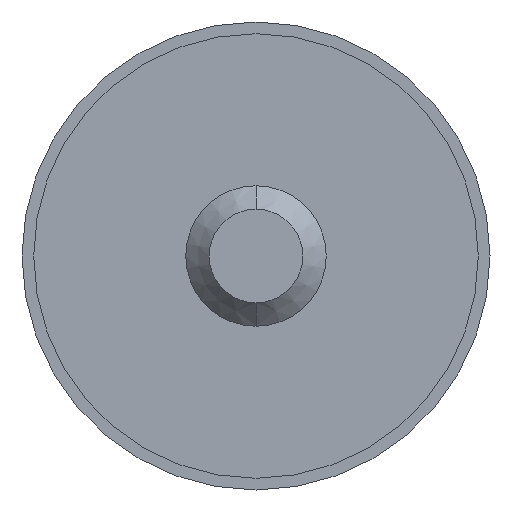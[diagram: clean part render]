
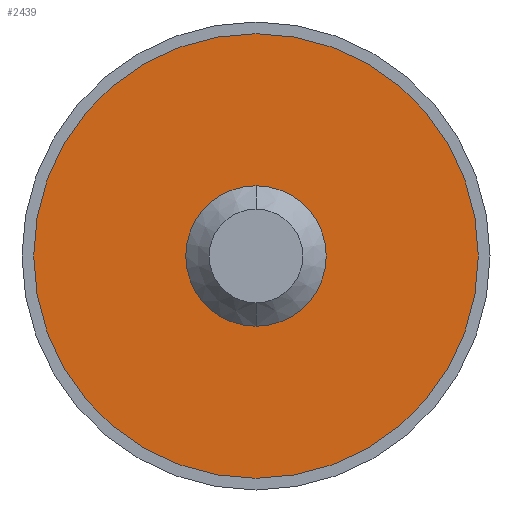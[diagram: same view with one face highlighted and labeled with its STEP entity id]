
A CAD part, front view. The second image highlights one B-rep face of the part: STEP entity #2439.
In plain terms, the highlighted planar face has unit normal (0, -1, 0).
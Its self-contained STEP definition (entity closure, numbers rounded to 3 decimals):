
#43 = DIRECTION ( 'NONE',  ( 0., 0., -1. ) ) ;
#152 = CARTESIAN_POINT ( 'NONE',  ( 0., -1., 3. ) ) ;
#338 = DIRECTION ( 'NONE',  ( 0., 0., 1. ) ) ;
#340 = DIRECTION ( 'NONE',  ( 0., 0., 1. ) ) ;
#459 = CIRCLE ( 'NONE', #2660, 3. ) ;
#659 = DIRECTION ( 'NONE',  ( 0., 1., 0. ) ) ;
#704 = AXIS2_PLACEMENT_3D ( 'NONE', #3659, #1182, #3353 ) ;
#712 = EDGE_CURVE ( 'NONE', #1433, #3768, #459, .T. ) ;
#718 = EDGE_CURVE ( 'NONE', #3768, #1433, #3580, .T. ) ;
#1051 = FACE_OUTER_BOUND ( 'NONE', #3373, .T. ) ;
#1182 = DIRECTION ( 'NONE',  ( 0., 1., 0. ) ) ;
#1228 = CARTESIAN_POINT ( 'NONE',  ( 0., -1., 0. ) ) ;
#1270 = CARTESIAN_POINT ( 'NONE',  ( 0., -1., 0. ) ) ;
#1277 = CARTESIAN_POINT ( 'NONE',  ( 0., -1., 9.5 ) ) ;
#1359 = CARTESIAN_POINT ( 'NONE',  ( 0., -1., -9.5 ) ) ;
#1433 = VERTEX_POINT ( 'NONE', #152 ) ;
#1450 = ORIENTED_EDGE ( 'NONE', *, *, #2894, .F. ) ;
#1496 = AXIS2_PLACEMENT_3D ( 'NONE', #1228, #2132, #3066 ) ;
#1533 = PLANE ( 'NONE',  #704 ) ;
#1797 = CIRCLE ( 'NONE', #1955, 9.5 ) ;
#1809 = AXIS2_PLACEMENT_3D ( 'NONE', #2477, #3052, #340 ) ;
#1955 = AXIS2_PLACEMENT_3D ( 'NONE', #3165, #659, #338 ) ;
#2132 = DIRECTION ( 'NONE',  ( 0., -1., 0. ) ) ;
#2276 = FACE_BOUND ( 'NONE', #2370, .T. ) ;
#2366 = VERTEX_POINT ( 'NONE', #1277 ) ;
#2370 = EDGE_LOOP ( 'NONE', ( #2410, #2703 ) ) ;
#2410 = ORIENTED_EDGE ( 'NONE', *, *, #712, .F. ) ;
#2439 = ADVANCED_FACE ( 'NONE', ( #2276, #1051 ), #1533, .F. ) ;
#2477 = CARTESIAN_POINT ( 'NONE',  ( 0., -1., 0. ) ) ;
#2660 = AXIS2_PLACEMENT_3D ( 'NONE', #1270, #3669, #43 ) ;
#2703 = ORIENTED_EDGE ( 'NONE', *, *, #718, .F. ) ;
#2894 = EDGE_CURVE ( 'NONE', #3386, #2366, #1797, .T. ) ;
#3052 = DIRECTION ( 'NONE',  ( 0., 1., 0. ) ) ;
#3066 = DIRECTION ( 'NONE',  ( 0., 0., -1. ) ) ;
#3120 = EDGE_CURVE ( 'NONE', #2366, #3386, #3556, .T. ) ;
#3165 = CARTESIAN_POINT ( 'NONE',  ( 0., -1., 0. ) ) ;
#3353 = DIRECTION ( 'NONE',  ( 0., 0., 1. ) ) ;
#3373 = EDGE_LOOP ( 'NONE', ( #3592, #1450 ) ) ;
#3386 = VERTEX_POINT ( 'NONE', #1359 ) ;
#3488 = CARTESIAN_POINT ( 'NONE',  ( 0., -1., -3. ) ) ;
#3556 = CIRCLE ( 'NONE', #1809, 9.5 ) ;
#3580 = CIRCLE ( 'NONE', #1496, 3. ) ;
#3592 = ORIENTED_EDGE ( 'NONE', *, *, #3120, .F. ) ;
#3659 = CARTESIAN_POINT ( 'NONE',  ( 0., -1., 0. ) ) ;
#3669 = DIRECTION ( 'NONE',  ( 0., -1., 0. ) ) ;
#3768 = VERTEX_POINT ( 'NONE', #3488 ) ;
